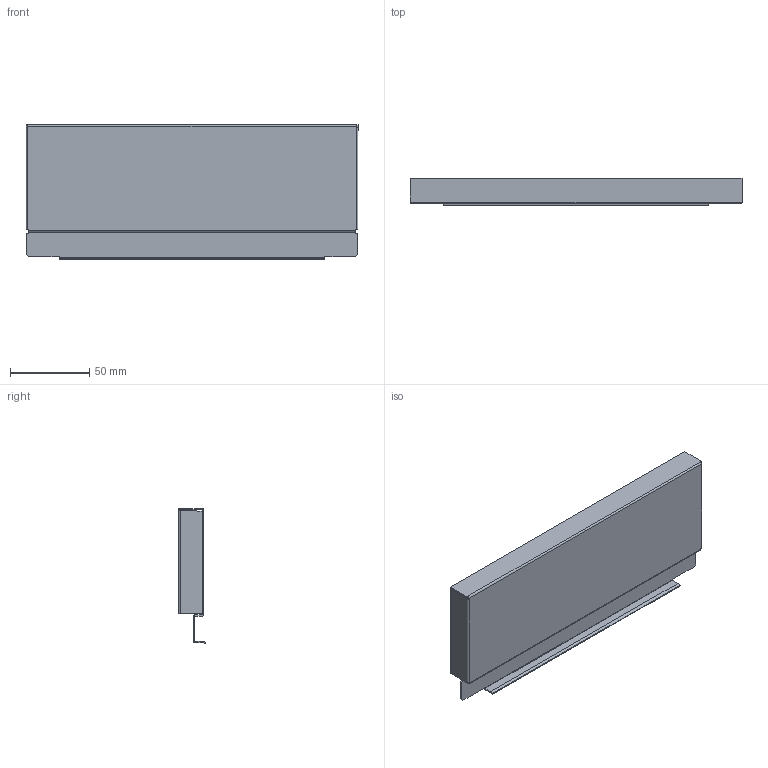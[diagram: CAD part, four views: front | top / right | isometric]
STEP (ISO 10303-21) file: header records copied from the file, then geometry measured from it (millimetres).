
FILE_DESCRIPTION (( 'STEP AP214' ), '1' );
FILE_NAME ('_STRW_H90_KAB_300.step', '2010-08-24T14:40:12', ( 'grass' ), ( '' ), 'SwSTEP 2.0', 'SolidWorks 2009', '' );
FILE_SCHEMA (( 'AUTOMOTIVE_DESIGN' ));
Length unit declared in the file: millimetre
Products named in the file (1): _STRW_H90_KAB_300
Bounding box: 210 x 17 x 85.14 mm (x, y, z)
Volume: 20627 mm3; surface area: 52161.4 mm2
Topology: 1 solids, 1 shells, 76 faces, 214 edges, 140 vertices
Faces by surface type: plane 54, cylinder 22
Entity records: 2472 total; most frequent: CARTESIAN_POINT 431, ORIENTED_EDGE 428, DIRECTION 412, EDGE_CURVE 214, LINE 170, VECTOR 170, VERTEX_POINT 140, AXIS2_PLACEMENT_3D 121
